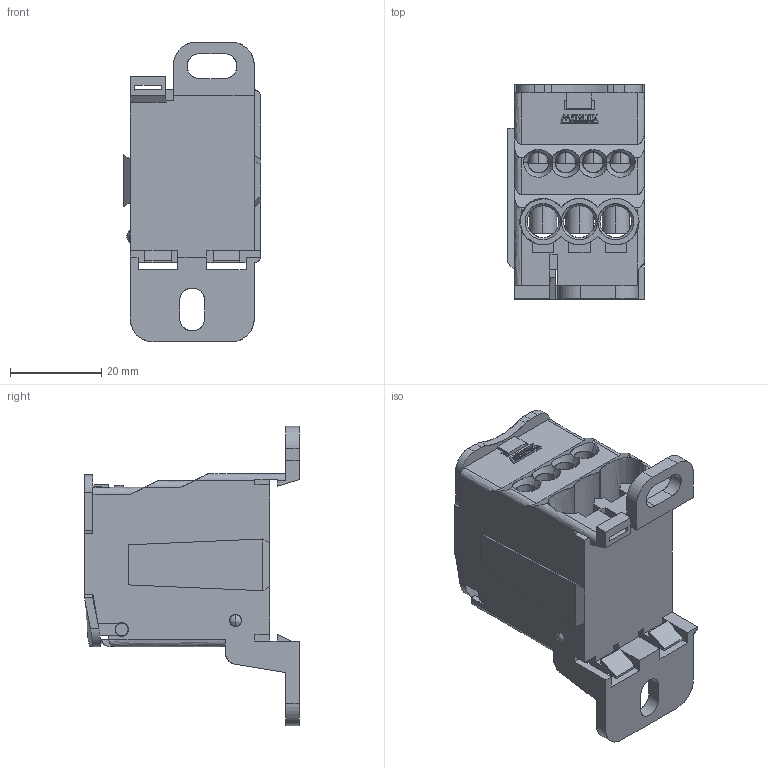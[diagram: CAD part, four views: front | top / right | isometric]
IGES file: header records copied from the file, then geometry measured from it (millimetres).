
Start section: SolidWorks IGES file using analytic representation for surfaces
Global section: file name: D:\X - Arquivos\PROEX\Empresas\P11 - METALTEX\01 - Produtos\IGES\5ª remessa\2ª etapa\BDA80.IGS; native system: SolidWorks 2012; preprocessor: SolidWorks 2012; author: Usuario; date: 180810.165713; units: millimetre
Bounding box: 30.1 x 47.1 x 65.8 mm (x, y, z)
Surface area: 18055.7 mm2 (no closed solid volume)
Topology: 0 solids, 0 shells, 509 faces, 5951 edges, 5950 vertices
Faces by surface type: bspline 360, revolution 149
